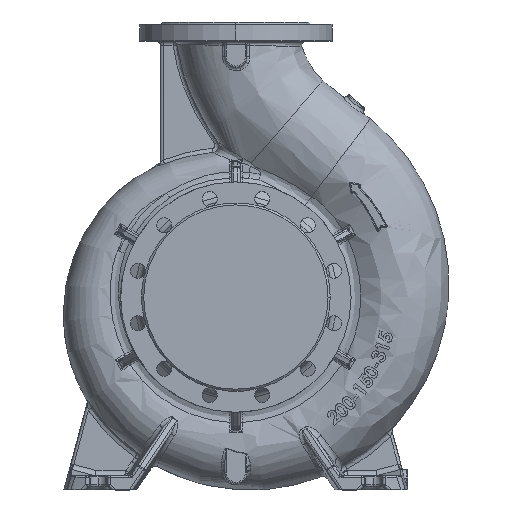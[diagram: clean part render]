
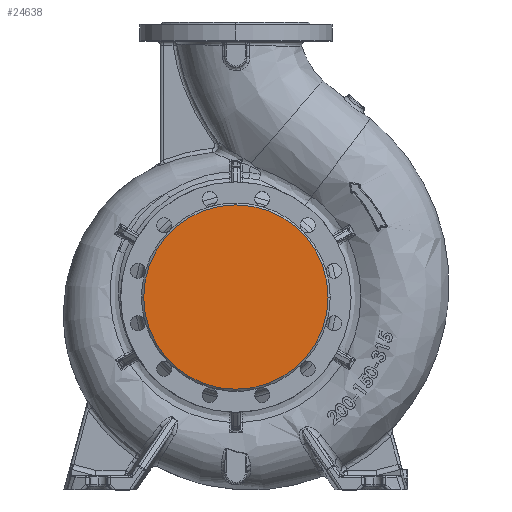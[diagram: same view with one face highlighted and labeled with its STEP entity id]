
A CAD part, top view. The second image highlights one B-rep face of the part: STEP entity #24638.
In plain terms, the highlighted planar face has unit normal (0, 0, 1).
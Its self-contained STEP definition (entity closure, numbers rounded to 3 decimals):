
#4893 = DIRECTION ( 'NONE',  ( 0., 0., 1. ) ) ;
#5314 = VERTEX_POINT ( 'NONE', #29205 ) ;
#6878 = DIRECTION ( 'NONE',  ( 0., 0., 1. ) ) ;
#10289 = VERTEX_POINT ( 'NONE', #64830 ) ;
#12803 = DIRECTION ( 'NONE',  ( 1., 0., 0. ) ) ;
#15003 = PLANE ( 'NONE',  #98777 ) ;
#15351 = DIRECTION ( 'NONE',  ( 0., 0., 1. ) ) ;
#15697 = CARTESIAN_POINT ( 'NONE',  ( 0., 0., 160. ) ) ;
#24121 = FACE_OUTER_BOUND ( 'NONE', #98673, .T. ) ;
#24638 = ADVANCED_FACE ( 'NONE', ( #24121 ), #15003, .T. ) ;
#29205 = CARTESIAN_POINT ( 'NONE',  ( 134., 0., 160. ) ) ;
#35164 = ORIENTED_EDGE ( 'NONE', *, *, #70045, .T. ) ;
#37166 = ORIENTED_EDGE ( 'NONE', *, *, #55496, .T. ) ;
#44654 = CARTESIAN_POINT ( 'NONE',  ( 0., 0., 160. ) ) ;
#55496 = EDGE_CURVE ( 'NONE', #5314, #10289, #84846, .T. ) ;
#56825 = CIRCLE ( 'NONE', #96517, 134. ) ;
#64830 = CARTESIAN_POINT ( 'NONE',  ( -134., 0., 160. ) ) ;
#64840 = DIRECTION ( 'NONE',  ( 1., 0., 0. ) ) ;
#70045 = EDGE_CURVE ( 'NONE', #10289, #5314, #56825, .T. ) ;
#71900 = AXIS2_PLACEMENT_3D ( 'NONE', #81209, #6878, #64840 ) ;
#81209 = CARTESIAN_POINT ( 'NONE',  ( 0., 0., 160. ) ) ;
#84846 = CIRCLE ( 'NONE', #71900, 134. ) ;
#96517 = AXIS2_PLACEMENT_3D ( 'NONE', #44654, #4893, #12803 ) ;
#97453 = DIRECTION ( 'NONE',  ( 1., 0., 0. ) ) ;
#98673 = EDGE_LOOP ( 'NONE', ( #35164, #37166 ) ) ;
#98777 = AXIS2_PLACEMENT_3D ( 'NONE', #15697, #15351, #97453 ) ;
